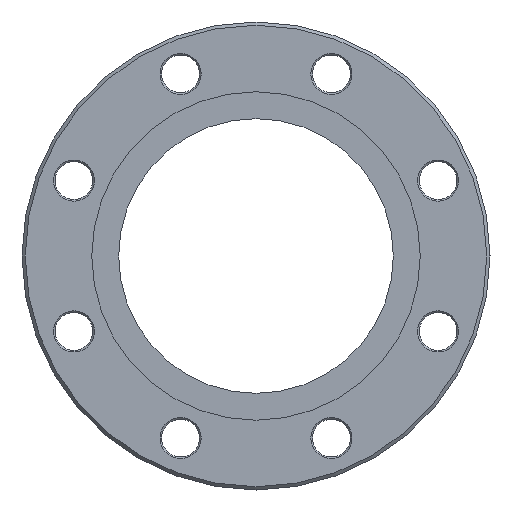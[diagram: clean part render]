
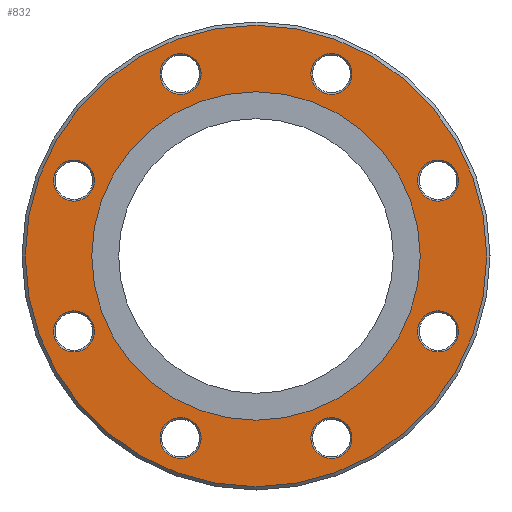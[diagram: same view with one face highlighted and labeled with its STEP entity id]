
A CAD part, left-side view. The second image highlights one B-rep face of the part: STEP entity #832.
In plain terms, the highlighted planar face has unit normal (-1, 0, 0).
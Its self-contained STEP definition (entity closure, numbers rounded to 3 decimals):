
#4 = CARTESIAN_POINT ( 'NONE',  ( -99.5, 0., -100. ) ) ;
#42 = CIRCLE ( 'NONE', #440, 12.5 ) ;
#49 = CIRCLE ( 'NONE', #2340, 100. ) ;
#81 = CARTESIAN_POINT ( 'NONE',  ( -99.5, 45.922, 123.366 ) ) ;
#158 = CARTESIAN_POINT ( 'NONE',  ( -99.5, -110.866, 45.922 ) ) ;
#187 = AXIS2_PLACEMENT_3D ( 'NONE', #2940, #2162, #2918 ) ;
#299 = EDGE_CURVE ( 'NONE', #4337, #4337, #2951, .T. ) ;
#440 = AXIS2_PLACEMENT_3D ( 'NONE', #1200, #4671, #2020 ) ;
#470 = FACE_BOUND ( 'NONE', #3518, .T. ) ;
#477 = DIRECTION ( 'NONE',  ( 0., 0., 1. ) ) ;
#499 = CIRCLE ( 'NONE', #4151, 12.5 ) ;
#545 = DIRECTION ( 'NONE',  ( 0., 0., -1. ) ) ;
#642 = AXIS2_PLACEMENT_3D ( 'NONE', #4388, #1801, #4814 ) ;
#727 = FACE_OUTER_BOUND ( 'NONE', #3775, .T. ) ;
#751 = CARTESIAN_POINT ( 'NONE',  ( -99.5, -123.366, 45.922 ) ) ;
#796 = EDGE_LOOP ( 'NONE', ( #2438 ) ) ;
#802 = AXIS2_PLACEMENT_3D ( 'NONE', #1188, #2635, #2332 ) ;
#811 = AXIS2_PLACEMENT_3D ( 'NONE', #4723, #3936, #477 ) ;
#832 = ADVANCED_FACE ( 'NONE', ( #3045, #3339, #844, #470, #4903, #1868, #2671, #4504, #4638, #727 ), #4133, .F. ) ;
#844 = FACE_BOUND ( 'NONE', #2719, .T. ) ;
#873 = CARTESIAN_POINT ( 'NONE',  ( -99.5, -45.922, -98.366 ) ) ;
#879 = VERTEX_POINT ( 'NONE', #4673 ) ;
#890 = CARTESIAN_POINT ( 'NONE',  ( -99.5, 110.866, 45.922 ) ) ;
#902 = CIRCLE ( 'NONE', #187, 12.5 ) ;
#920 = CARTESIAN_POINT ( 'NONE',  ( -99.5, 0., 0. ) ) ;
#931 = EDGE_CURVE ( 'NONE', #879, #879, #3260, .T. ) ;
#971 = CIRCLE ( 'NONE', #811, 12.5 ) ;
#1188 = CARTESIAN_POINT ( 'NONE',  ( -99.5, 0., 0. ) ) ;
#1200 = CARTESIAN_POINT ( 'NONE',  ( -99.5, 45.922, -110.866 ) ) ;
#1240 = DIRECTION ( 'NONE',  ( 0., 0., -1. ) ) ;
#1259 = CARTESIAN_POINT ( 'NONE',  ( -99.5, -110.866, -45.922 ) ) ;
#1267 = ORIENTED_EDGE ( 'NONE', *, *, #2168, .T. ) ;
#1377 = EDGE_LOOP ( 'NONE', ( #3239 ) ) ;
#1437 = EDGE_CURVE ( 'NONE', #2594, #2594, #2468, .T. ) ;
#1571 = CARTESIAN_POINT ( 'NONE',  ( -99.5, 98.366, -45.922 ) ) ;
#1626 = EDGE_LOOP ( 'NONE', ( #3821 ) ) ;
#1790 = VERTEX_POINT ( 'NONE', #3311 ) ;
#1801 = DIRECTION ( 'NONE',  ( 1., 0., 0. ) ) ;
#1868 = FACE_BOUND ( 'NONE', #2952, .T. ) ;
#1900 = ORIENTED_EDGE ( 'NONE', *, *, #2754, .T. ) ;
#2020 = DIRECTION ( 'NONE',  ( 0., -1., 0. ) ) ;
#2064 = DIRECTION ( 'NONE',  ( 0., -1., 0. ) ) ;
#2089 = CIRCLE ( 'NONE', #3927, 12.5 ) ;
#2162 = DIRECTION ( 'NONE',  ( 1., 0., 0. ) ) ;
#2168 = EDGE_CURVE ( 'NONE', #3492, #3492, #971, .T. ) ;
#2186 = EDGE_LOOP ( 'NONE', ( #3761 ) ) ;
#2245 = ORIENTED_EDGE ( 'NONE', *, *, #2625, .T. ) ;
#2332 = DIRECTION ( 'NONE',  ( 0., 1., 0. ) ) ;
#2340 = AXIS2_PLACEMENT_3D ( 'NONE', #920, #3955, #545 ) ;
#2348 = DIRECTION ( 'NONE',  ( 0., -1., 0. ) ) ;
#2393 = DIRECTION ( 'NONE',  ( 1., 0., 0. ) ) ;
#2430 = ORIENTED_EDGE ( 'NONE', *, *, #931, .T. ) ;
#2438 = ORIENTED_EDGE ( 'NONE', *, *, #4202, .T. ) ;
#2468 = CIRCLE ( 'NONE', #642, 12.5 ) ;
#2474 = AXIS2_PLACEMENT_3D ( 'NONE', #890, #2505, #3557 ) ;
#2505 = DIRECTION ( 'NONE',  ( 1., 0., 0. ) ) ;
#2535 = EDGE_LOOP ( 'NONE', ( #3218 ) ) ;
#2557 = VERTEX_POINT ( 'NONE', #4846 ) ;
#2594 = VERTEX_POINT ( 'NONE', #2618 ) ;
#2618 = CARTESIAN_POINT ( 'NONE',  ( -99.5, -45.922, 123.366 ) ) ;
#2625 = EDGE_CURVE ( 'NONE', #3396, #3396, #499, .T. ) ;
#2635 = DIRECTION ( 'NONE',  ( 1., 0., 0. ) ) ;
#2639 = VERTEX_POINT ( 'NONE', #751 ) ;
#2671 = FACE_BOUND ( 'NONE', #1626, .T. ) ;
#2719 = EDGE_LOOP ( 'NONE', ( #2245 ) ) ;
#2754 = EDGE_CURVE ( 'NONE', #4276, #4276, #902, .T. ) ;
#2918 = DIRECTION ( 'NONE',  ( 0., 0., 1. ) ) ;
#2940 = CARTESIAN_POINT ( 'NONE',  ( -99.5, -45.922, -110.866 ) ) ;
#2951 = CIRCLE ( 'NONE', #802, 140.5 ) ;
#2952 = EDGE_LOOP ( 'NONE', ( #1267 ) ) ;
#2985 = AXIS2_PLACEMENT_3D ( 'NONE', #158, #3192, #2064 ) ;
#3020 = CARTESIAN_POINT ( 'NONE',  ( -99.5, 0., 0. ) ) ;
#3045 = FACE_BOUND ( 'NONE', #4129, .T. ) ;
#3103 = CARTESIAN_POINT ( 'NONE',  ( -99.5, 110.866, -45.922 ) ) ;
#3192 = DIRECTION ( 'NONE',  ( 1., 0., 0. ) ) ;
#3218 = ORIENTED_EDGE ( 'NONE', *, *, #3453, .T. ) ;
#3222 = CIRCLE ( 'NONE', #2985, 12.5 ) ;
#3239 = ORIENTED_EDGE ( 'NONE', *, *, #4678, .F. ) ;
#3260 = CIRCLE ( 'NONE', #2474, 12.5 ) ;
#3311 = CARTESIAN_POINT ( 'NONE',  ( -99.5, 33.422, -110.866 ) ) ;
#3339 = FACE_BOUND ( 'NONE', #2186, .T. ) ;
#3396 = VERTEX_POINT ( 'NONE', #1571 ) ;
#3453 = EDGE_CURVE ( 'NONE', #2557, #2557, #2089, .T. ) ;
#3492 = VERTEX_POINT ( 'NONE', #81 ) ;
#3518 = EDGE_LOOP ( 'NONE', ( #2430 ) ) ;
#3557 = DIRECTION ( 'NONE',  ( 0., -1., 0. ) ) ;
#3569 = CARTESIAN_POINT ( 'NONE',  ( -99.5, 140.5, 0. ) ) ;
#3675 = DIRECTION ( 'NONE',  ( 0., -1., 0. ) ) ;
#3761 = ORIENTED_EDGE ( 'NONE', *, *, #4123, .T. ) ;
#3775 = EDGE_LOOP ( 'NONE', ( #4155 ) ) ;
#3786 = VERTEX_POINT ( 'NONE', #4 ) ;
#3821 = ORIENTED_EDGE ( 'NONE', *, *, #1437, .T. ) ;
#3927 = AXIS2_PLACEMENT_3D ( 'NONE', #1259, #4288, #3675 ) ;
#3936 = DIRECTION ( 'NONE',  ( 1., 0., 0. ) ) ;
#3955 = DIRECTION ( 'NONE',  ( -1., 0., 0. ) ) ;
#4123 = EDGE_CURVE ( 'NONE', #1790, #1790, #42, .T. ) ;
#4129 = EDGE_LOOP ( 'NONE', ( #1900 ) ) ;
#4133 = PLANE ( 'NONE',  #4765 ) ;
#4151 = AXIS2_PLACEMENT_3D ( 'NONE', #3103, #2393, #2348 ) ;
#4155 = ORIENTED_EDGE ( 'NONE', *, *, #299, .F. ) ;
#4202 = EDGE_CURVE ( 'NONE', #2639, #2639, #3222, .T. ) ;
#4276 = VERTEX_POINT ( 'NONE', #873 ) ;
#4288 = DIRECTION ( 'NONE',  ( 1., 0., 0. ) ) ;
#4337 = VERTEX_POINT ( 'NONE', #3569 ) ;
#4388 = CARTESIAN_POINT ( 'NONE',  ( -99.5, -45.922, 110.866 ) ) ;
#4504 = FACE_BOUND ( 'NONE', #796, .T. ) ;
#4527 = DIRECTION ( 'NONE',  ( 1., 0., 0. ) ) ;
#4638 = FACE_BOUND ( 'NONE', #1377, .T. ) ;
#4671 = DIRECTION ( 'NONE',  ( 1., 0., 0. ) ) ;
#4673 = CARTESIAN_POINT ( 'NONE',  ( -99.5, 98.366, 45.922 ) ) ;
#4678 = EDGE_CURVE ( 'NONE', #3786, #3786, #49, .T. ) ;
#4723 = CARTESIAN_POINT ( 'NONE',  ( -99.5, 45.922, 110.866 ) ) ;
#4765 = AXIS2_PLACEMENT_3D ( 'NONE', #3020, #4527, #1240 ) ;
#4814 = DIRECTION ( 'NONE',  ( 0., 0., 1. ) ) ;
#4846 = CARTESIAN_POINT ( 'NONE',  ( -99.5, -123.366, -45.922 ) ) ;
#4903 = FACE_BOUND ( 'NONE', #2535, .T. ) ;
